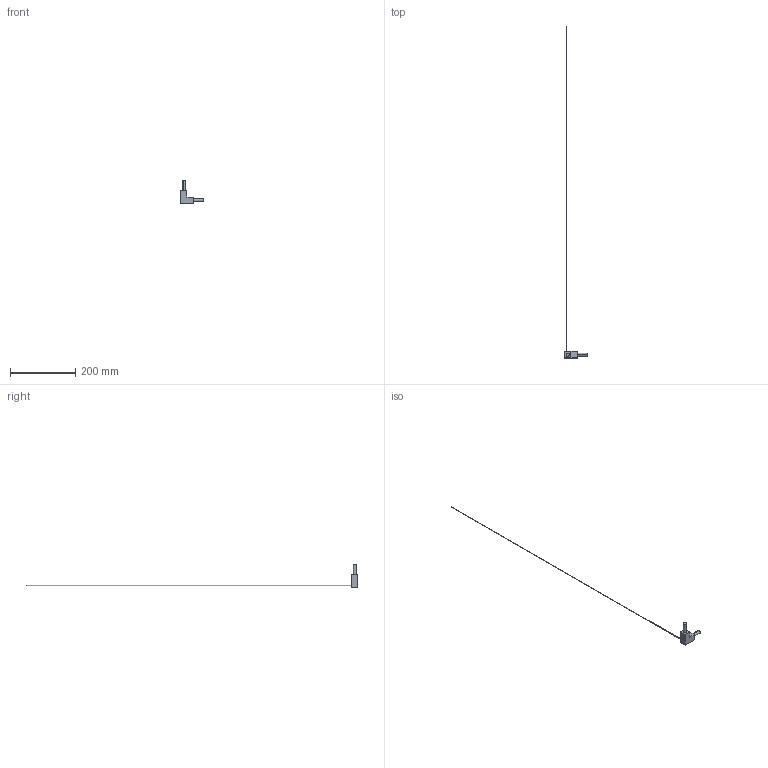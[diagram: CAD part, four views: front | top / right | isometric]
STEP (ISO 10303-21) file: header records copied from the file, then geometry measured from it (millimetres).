
FILE_DESCRIPTION (( 'STEP AP214' ), '1' );
FILE_NAME ('3D_LINESCAPES_HORIZ_ANGLE.STEP', '2018-03-02T15:47:59', ( 'Utente' ), ( '' ), 'SwSTEP 2.0', 'SolidWorks 2016', '' );
FILE_SCHEMA (( 'AUTOMOTIVE_DESIGN' ));
Length unit declared in the file: millimetre
Products named in the file (4): CAVO1.2; TEC; ANGOLO; 3D_LINESCAPES_HORIZ_ANGLE
Assembly tree (4 placements, depth 2):
  3D_LINESCAPES_HORIZ_ANGLE
    ANGOLO
    TEC  x2
    CAVO1.2
Bounding box: 71 x 1015 x 71 mm (x, y, z)
Volume: 29994.8 mm3; surface area: 11615.3 mm2
Topology: 4 solids, 4 shells, 20 faces, 36 edges, 24 vertices
Faces by surface type: plane 14, cylinder 6
Entity records: 564 total; most frequent: DIRECTION 84, CARTESIAN_POINT 73, ORIENTED_EDGE 60, AXIS2_PLACEMENT_3D 31, EDGE_CURVE 30, VECTOR 22, LINE 22, VERTEX_POINT 20
